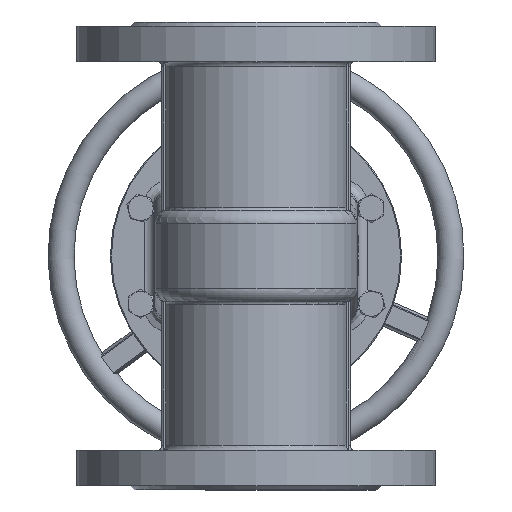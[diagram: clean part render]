
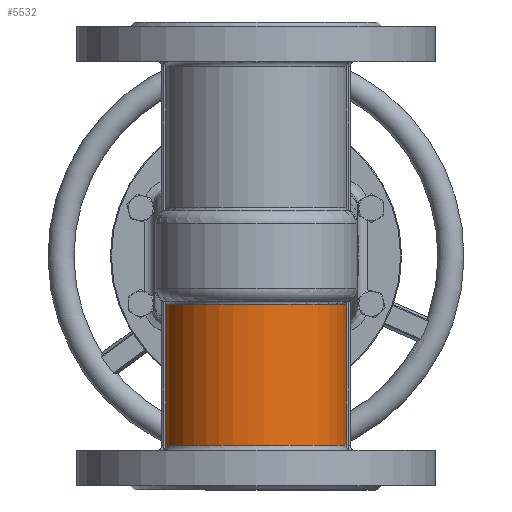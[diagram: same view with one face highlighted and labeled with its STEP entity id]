
A CAD part, front view. The second image highlights one B-rep face of the part: STEP entity #5532.
In plain terms, the highlighted cylindrical face has radius 87.5 mm (diameter 175 mm), a partial arc.
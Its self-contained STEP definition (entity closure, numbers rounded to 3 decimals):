
#5532=ADVANCED_FACE('',(#16761),#16763,.T.);
#16761=FACE_BOUND('',#16762,.T.);
#16762=EDGE_LOOP('',(#22550,#22551,#22552,#22553));
#16763=CYLINDRICAL_SURFACE('',#16764,87.5);
#16764=AXIS2_PLACEMENT_3D('',#16765,#16766,#16767);
#16765=CARTESIAN_POINT('',(0.,0.,-225.));
#16766=DIRECTION('',(0.,0.,1.));
#16767=DIRECTION('',(-0.99,-0.143,0.));
#22550=ORIENTED_EDGE('',*,*,#25410,.F.);
#22551=ORIENTED_EDGE('',*,*,#25411,.T.);
#22552=ORIENTED_EDGE('',*,*,#25300,.F.);
#22553=ORIENTED_EDGE('',*,*,#25409,.F.);
#25300=EDGE_CURVE('',#29566,#29568,#29569,.T.);
#25409=EDGE_CURVE('',#29732,#29566,#29734,.T.);
#25410=EDGE_CURVE('',#29735,#29732,#29736,.F.);
#25411=EDGE_CURVE('',#29735,#29568,#29737,.T.);
#29566=VERTEX_POINT('',#60539);
#29568=VERTEX_POINT('',#60618);
#29569=CIRCLE('',#60619,87.5);
#29732=VERTEX_POINT('',#61984);
#29734=LINE('',#61988,#61989);
#29735=VERTEX_POINT('',#61991);
#29736=CIRCLE('',#61992,87.5);
#29737=LINE('',#61996,#61997);
#60539=CARTESIAN_POINT('',(-86.603,-12.5,-46.492));
#60618=CARTESIAN_POINT('',(86.603,-12.5,-46.492));
#60619=AXIS2_PLACEMENT_3D('',#60620,#60621,#60622);
#60620=CARTESIAN_POINT('',(0.,0.,-46.492));
#60621=DIRECTION('',(0.,0.,1.));
#60622=DIRECTION('',(-0.99,-0.143,0.));
#61984=CARTESIAN_POINT('',(-86.603,-12.5,-182.));
#61988=CARTESIAN_POINT('',(-86.603,-12.5,-182.));
#61989=VECTOR('',#61990,1.);
#61990=DIRECTION('',(0.,0.,1.));
#61991=CARTESIAN_POINT('',(86.603,-12.5,-182.));
#61992=AXIS2_PLACEMENT_3D('',#61993,#61994,#61995);
#61993=CARTESIAN_POINT('',(0.,0.,-182.));
#61994=DIRECTION('',(0.,0.,1.));
#61995=DIRECTION('',(-0.99,-0.143,0.));
#61996=CARTESIAN_POINT('',(86.603,-12.5,-182.));
#61997=VECTOR('',#61998,1.);
#61998=DIRECTION('',(0.,0.,1.));
